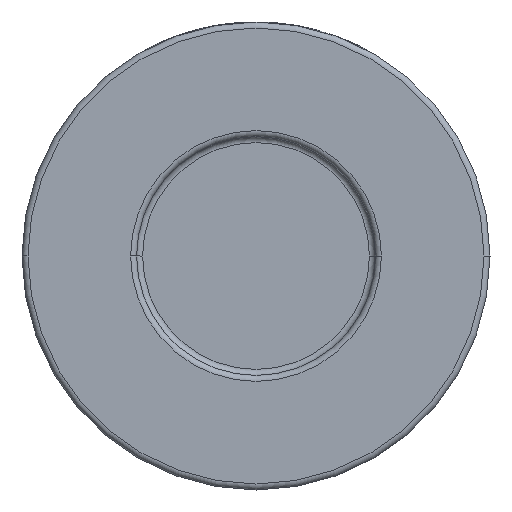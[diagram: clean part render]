
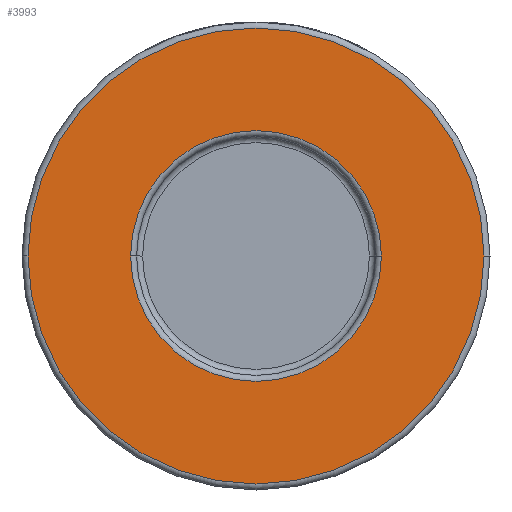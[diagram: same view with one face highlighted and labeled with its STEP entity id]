
A CAD part, front view. The second image highlights one B-rep face of the part: STEP entity #3993.
In plain terms, the highlighted planar face has unit normal (0, -1, 0).
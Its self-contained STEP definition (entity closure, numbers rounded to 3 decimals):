
#83 = FACE_BOUND ( 'NONE', #2474, .T. ) ;
#96 = CARTESIAN_POINT ( 'NONE',  ( -20.9, -26., 0. ) ) ;
#195 = EDGE_CURVE ( 'NONE', #2220, #4217, #839, .T. ) ;
#255 = EDGE_CURVE ( 'NONE', #4217, #2220, #1729, .T. ) ;
#265 = AXIS2_PLACEMENT_3D ( 'NONE', #2554, #496, #2230 ) ;
#455 = FACE_OUTER_BOUND ( 'NONE', #1703, .T. ) ;
#496 = DIRECTION ( 'NONE',  ( 0., -1., 0. ) ) ;
#540 = ORIENTED_EDGE ( 'NONE', *, *, #195, .T. ) ;
#640 = VERTEX_POINT ( 'NONE', #2272 ) ;
#773 = CARTESIAN_POINT ( 'NONE',  ( 20.9, -26., 0. ) ) ;
#839 = CIRCLE ( 'NONE', #1508, 20.9 ) ;
#1047 = DIRECTION ( 'NONE',  ( 1., 0., 0. ) ) ;
#1343 = CARTESIAN_POINT ( 'NONE',  ( 0., -26., 0. ) ) ;
#1508 = AXIS2_PLACEMENT_3D ( 'NONE', #2439, #3812, #3155 ) ;
#1514 = PLANE ( 'NONE',  #265 ) ;
#1703 = EDGE_LOOP ( 'NONE', ( #3937, #3336 ) ) ;
#1729 = CIRCLE ( 'NONE', #4071, 20.9 ) ;
#2026 = AXIS2_PLACEMENT_3D ( 'NONE', #3145, #4252, #4149 ) ;
#2119 = CIRCLE ( 'NONE', #2336, 38. ) ;
#2205 = EDGE_CURVE ( 'NONE', #640, #3897, #3635, .T. ) ;
#2220 = VERTEX_POINT ( 'NONE', #96 ) ;
#2230 = DIRECTION ( 'NONE',  ( 1., 0., 0. ) ) ;
#2272 = CARTESIAN_POINT ( 'NONE',  ( 38., -26., 0. ) ) ;
#2336 = AXIS2_PLACEMENT_3D ( 'NONE', #2445, #3109, #4507 ) ;
#2344 = CARTESIAN_POINT ( 'NONE',  ( -38., -26., 0. ) ) ;
#2439 = CARTESIAN_POINT ( 'NONE',  ( 0., -26., 0. ) ) ;
#2445 = CARTESIAN_POINT ( 'NONE',  ( 0., -26., 0. ) ) ;
#2474 = EDGE_LOOP ( 'NONE', ( #4118, #540 ) ) ;
#2554 = CARTESIAN_POINT ( 'NONE',  ( 39., -26., 0. ) ) ;
#2828 = EDGE_CURVE ( 'NONE', #3897, #640, #2119, .T. ) ;
#3109 = DIRECTION ( 'NONE',  ( 0., -1., 0. ) ) ;
#3145 = CARTESIAN_POINT ( 'NONE',  ( 0., -26., 0. ) ) ;
#3155 = DIRECTION ( 'NONE',  ( 1., 0., 0. ) ) ;
#3336 = ORIENTED_EDGE ( 'NONE', *, *, #2828, .T. ) ;
#3635 = CIRCLE ( 'NONE', #2026, 38. ) ;
#3812 = DIRECTION ( 'NONE',  ( 0., 1., 0. ) ) ;
#3897 = VERTEX_POINT ( 'NONE', #2344 ) ;
#3937 = ORIENTED_EDGE ( 'NONE', *, *, #2205, .T. ) ;
#3993 = ADVANCED_FACE ( 'NONE', ( #83, #455 ), #1514, .T. ) ;
#4071 = AXIS2_PLACEMENT_3D ( 'NONE', #1343, #4224, #1047 ) ;
#4118 = ORIENTED_EDGE ( 'NONE', *, *, #255, .T. ) ;
#4149 = DIRECTION ( 'NONE',  ( 1., 0., 0. ) ) ;
#4217 = VERTEX_POINT ( 'NONE', #773 ) ;
#4224 = DIRECTION ( 'NONE',  ( 0., 1., 0. ) ) ;
#4252 = DIRECTION ( 'NONE',  ( 0., -1., 0. ) ) ;
#4507 = DIRECTION ( 'NONE',  ( 1., 0., 0. ) ) ;
